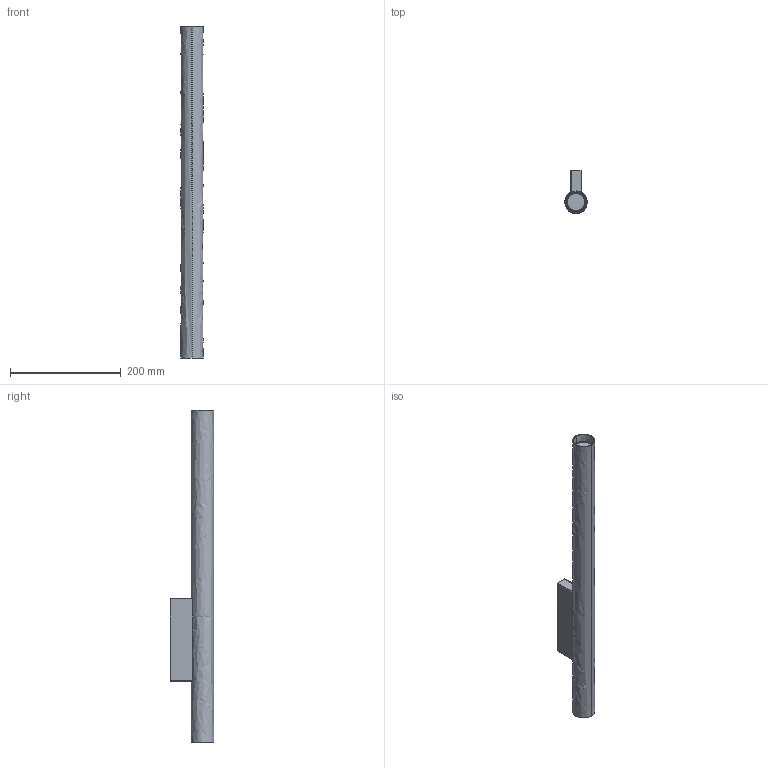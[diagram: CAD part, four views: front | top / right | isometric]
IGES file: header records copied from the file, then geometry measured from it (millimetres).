
Start section: SolidWorks IGES file using analytic representation for surfaces
Global section: file name: C:\Users\anna.bielnik\Desktop\modele 3D tymczasowe\FOURTY\FOURTY WALL\XL\PM\forty wall long 600 PM.IGS; native system: SolidWorks 2023; preprocessor: SolidWorks 2023; author: anna.bielnik; date: 230629.150028; units: millimetre
Bounding box: 40 x 77.86 x 600 mm (x, y, z)
Surface area: 174429.2 mm2 (no closed solid volume)
Topology: 0 solids, 0 shells, 58 faces, 1612 edges, 1612 vertices
Faces by surface type: revolution 30, bspline 28
